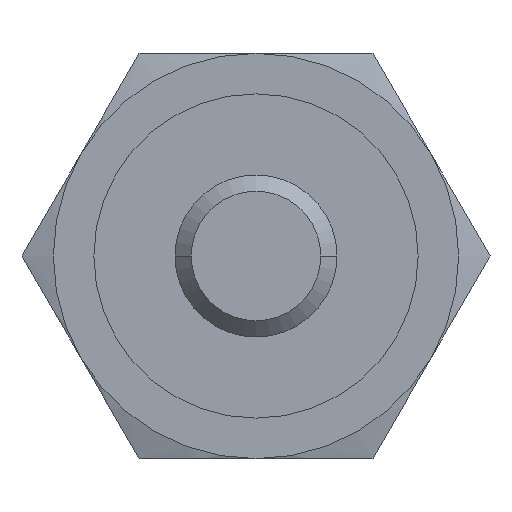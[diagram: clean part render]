
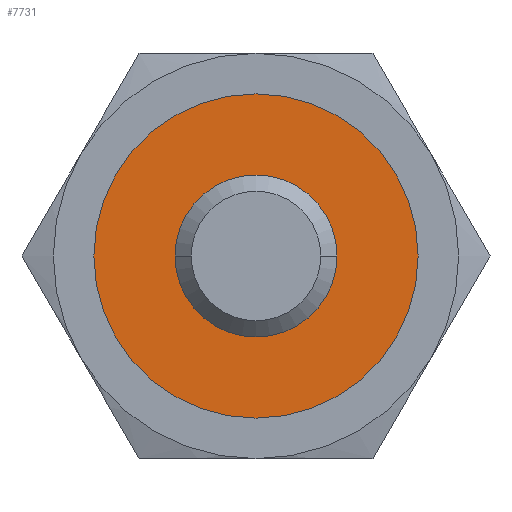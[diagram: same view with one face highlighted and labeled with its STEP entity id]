
A CAD part, left-side view. The second image highlights one B-rep face of the part: STEP entity #7731.
In plain terms, the highlighted free-form (B-spline) face has degree [1, 1] with [2, 2] control points.
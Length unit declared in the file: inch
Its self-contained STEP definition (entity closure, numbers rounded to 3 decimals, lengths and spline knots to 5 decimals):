
#3219=CARTESIAN_POINT('',(-0.42287,0.0,0.5));
#3220=VERTEX_POINT('',#3219);
#3236=CARTESIAN_POINT('',(-0.42287,0.,-0.5));
#3237=VERTEX_POINT('',#3236);
#3244=CARTESIAN_POINT('',(-0.42287,0.0,0.0));
#3245=DIRECTION('',(1.0,0.0,0.0));
#3246=DIRECTION('',(0.0,0.0,1.0));
#3247=AXIS2_PLACEMENT_3D('',#3244,#3245,#3246);
#3248=CIRCLE('',#3247,0.5);
#3249=EDGE_CURVE('',#3237,#3220,#3248,.T.);
#4542=CARTESIAN_POINT('',(-0.42287,0.2495,0.0));
#4543=VERTEX_POINT('',#4542);
#4552=CARTESIAN_POINT('',(-0.42287,-0.2495,0.));
#4553=VERTEX_POINT('',#4552);
#4554=CARTESIAN_POINT('',(-0.42287,0.0,0.0));
#4555=DIRECTION('',(-1.0,0.0,0.0));
#4556=DIRECTION('',(0.0,1.0,0.0));
#4557=AXIS2_PLACEMENT_3D('',#4554,#4555,#4556);
#4558=CIRCLE('',#4557,0.2495);
#4559=EDGE_CURVE('',#4543,#4553,#4558,.T.);
#6760=CARTESIAN_POINT('',(-0.42287,0.0,0.0));
#6761=DIRECTION('',(-1.0,0.0,0.0));
#6762=DIRECTION('',(0.0,1.0,0.0));
#6763=AXIS2_PLACEMENT_3D('',#6760,#6761,#6762);
#6764=CIRCLE('',#6763,0.2495);
#6765=EDGE_CURVE('',#4553,#4543,#6764,.T.);
#7712=CARTESIAN_POINT('',(-0.42287,-0.5,0.5));
#7713=CARTESIAN_POINT('',(-0.42287,0.5,0.5));
#7714=CARTESIAN_POINT('',(-0.42287,-0.5,-0.5));
#7715=CARTESIAN_POINT('',(-0.42287,0.5,-0.5));
#7716=B_SPLINE_SURFACE_WITH_KNOTS('',1,1,((#7712,#7714),(#7713,#7715)),.UNSPECIFIED.,.F.,.F.,.U.,(2,2),(2,2),(0.0,1.),(0.0,1.),.UNSPECIFIED.);
#7717=CARTESIAN_POINT('',(-0.42287,0.0,0.0));
#7718=DIRECTION('',(1.0,0.0,0.0));
#7719=DIRECTION('',(0.0,0.0,1.0));
#7720=AXIS2_PLACEMENT_3D('',#7717,#7718,#7719);
#7721=CIRCLE('',#7720,0.5);
#7722=EDGE_CURVE('',#3220,#3237,#7721,.T.);
#7723=ORIENTED_EDGE('',*,*,#7722,.F.);
#7724=ORIENTED_EDGE('',*,*,#3249,.F.);
#7725=EDGE_LOOP('',(#7723,#7724));
#7726=FACE_OUTER_BOUND('',#7725,.T.);
#7727=ORIENTED_EDGE('',*,*,#4559,.F.);
#7728=ORIENTED_EDGE('',*,*,#6765,.F.);
#7729=EDGE_LOOP('',(#7727,#7728));
#7730=FACE_BOUND('',#7729,.T.);
#7731=ADVANCED_FACE('',(#7726,#7730),#7716,.T.);
